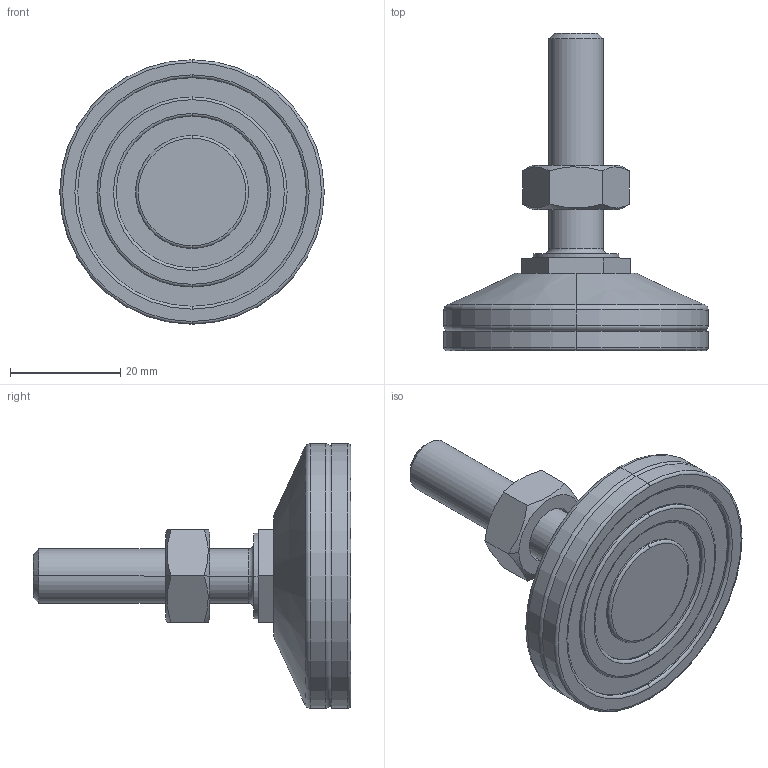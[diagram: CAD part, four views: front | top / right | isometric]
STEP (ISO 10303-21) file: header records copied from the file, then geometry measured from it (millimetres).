
FILE_DESCRIPTION (( 'STEP AP203' ), '1' );
FILE_NAME ('S44-0001 STD GLIDE ASSY.STEP', '2014-01-15T13:17:41', ( '' ), ( '' ), 'SwSTEP 2.0', 'SolidWorks 2013', '' );
FILE_SCHEMA (( 'CONFIG_CONTROL_DESIGN' ));
Length unit declared in the file: millimetre
Products named in the file (6): GLIDE BASE(644-01031-32); GLIDE BOLT(644-01031-32); GLIDE DRIVE SCREW(644-01031-32); GLIDE PAD(644-01031-32); GLIDE LOCK NUT(644-01031-2); S44-0001 STD GLIDE ASSY
Assembly tree (5 placements, depth 2):
  S44-0001 STD GLIDE ASSY
    GLIDE BASE(644-01031-32)
    GLIDE BOLT(644-01031-32)
    GLIDE DRIVE SCREW(644-01031-32)
    GLIDE PAD(644-01031-32)
    GLIDE LOCK NUT(644-01031-2)
Bounding box: 48 x 57.6 x 48 mm (x, y, z)
Volume: 20255.2 mm3; surface area: 14102.8 mm2
Topology: 5 solids, 5 shells, 149 faces, 321 edges, 195 vertices
Faces by surface type: plane 50, cylinder 38, torus 32, cone 29
Entity records: 4817 total; most frequent: CARTESIAN_POINT 873, DIRECTION 773, ORIENTED_EDGE 638, AXIS2_PLACEMENT_3D 331, EDGE_CURVE 319, VERTEX_POINT 195, CIRCLE 174, EDGE_LOOP 168
